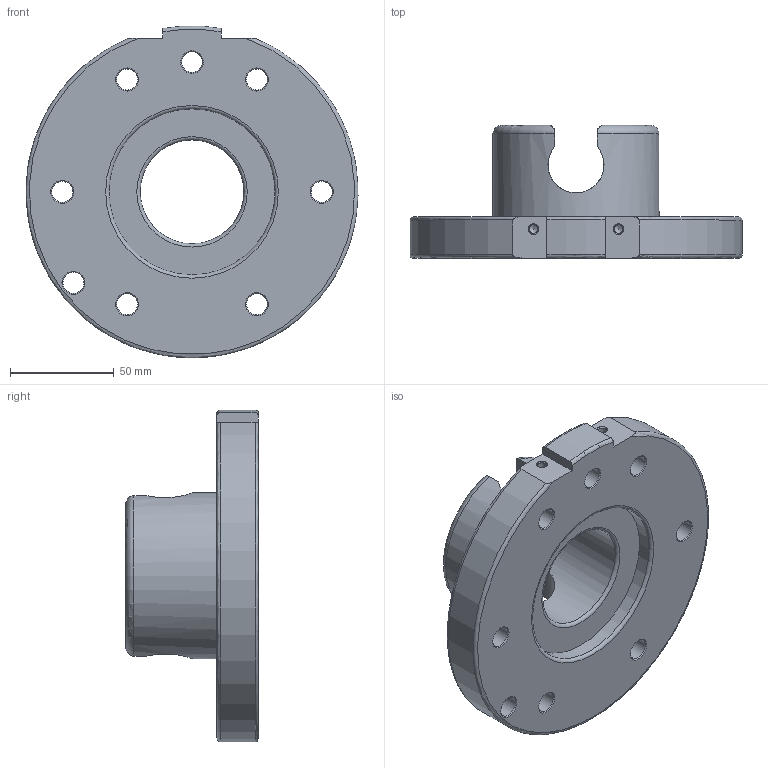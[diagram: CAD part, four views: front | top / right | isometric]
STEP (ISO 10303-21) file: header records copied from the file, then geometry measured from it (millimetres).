
FILE_DESCRIPTION(/* description */ (''),/* implementation_level */ '2;1');
FILE_NAME(/* name */ '\\dc01\daten\CAD\Standard\Daten\3D-Datenbank\Webseite 2020\SHW\SHW160\G-SHW160-2UE-LT.stp',/* time_stamp */ '2020-05-26T13:15:55+02:00',/* author */ ('ysplieth'),/* organization */ (''),/* preprocessor_version */ 'ST-DEVELOPER v17',/* originating_system */ 'Autodesk Inventor 2018',/* authorisation */ '');
FILE_SCHEMA (('AUTOMOTIVE_DESIGN { 1 0 10303 214 3 1 1 }'));
Length unit declared in the file: millimetre
Products named in the file (1): G-SHW160-2UE-LT
Bounding box: 159.96 x 64 x 159.86 mm (x, y, z)
Volume: 423054.8 mm3; surface area: 71325 mm2
Topology: 1 solids, 1 shells, 76 faces, 209 edges, 142 vertices
Faces by surface type: plane 23, cylinder 23, cone 20, torus 10
Full cylindrical faces by diameter (mm): 4.134 x2, 10 x1, 10.1 x1, 10.106 x6, 18 x6, 50 x1, 80 x2
Entity records: 2951 total; most frequent: CARTESIAN_POINT 802, DIRECTION 439, ORIENTED_EDGE 414, EDGE_CURVE 207, AXIS2_PLACEMENT_3D 183, VERTEX_POINT 142, EDGE_LOOP 103, CIRCLE 102
